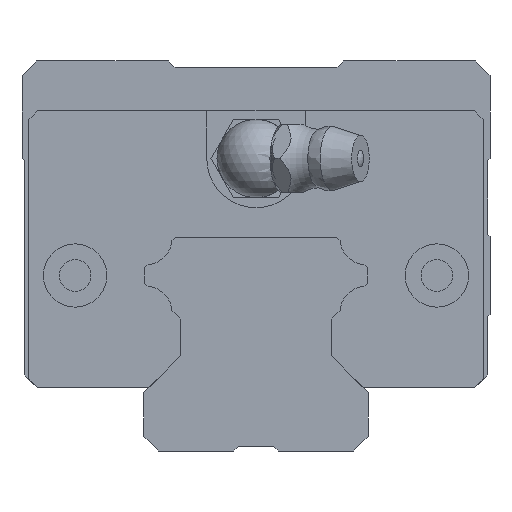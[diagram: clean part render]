
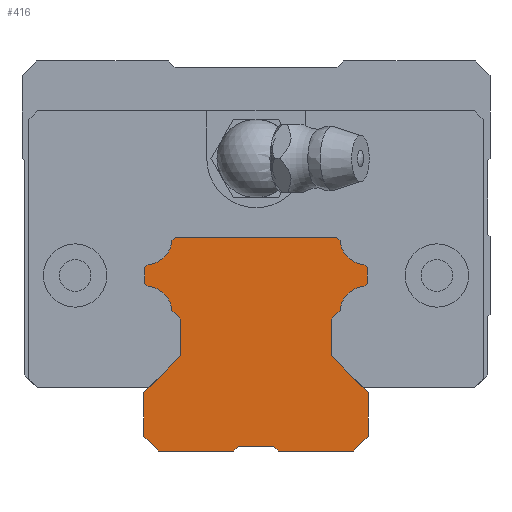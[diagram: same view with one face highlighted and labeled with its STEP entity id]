
A CAD part, front view. The second image highlights one B-rep face of the part: STEP entity #416.
In plain terms, the highlighted planar face has unit normal (0, -1, 0).
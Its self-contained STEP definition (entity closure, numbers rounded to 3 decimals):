
#277=CIRCLE('',#3350,2.65);
#279=CIRCLE('',#3356,2.65);
#290=CIRCLE('',#3385,2.65);
#292=CIRCLE('',#3391,2.65);
#416=ADVANCED_FACE('',(#728),#579,.T.);
#579=PLANE('',#3399);
#728=FACE_OUTER_BOUND('',#896,.T.);
#896=EDGE_LOOP('',(#1366,#1367,#1368,#1369,#1370,#1371,#1372,#1373,#1374,
#1375,#1376,#1377,#1378,#1379,#1380,#1381,#1382,#1383,#1384,#1385,#1386,
#1387,#1388,#1389,#1390,#1391,#1392,#1393));
#1366=ORIENTED_EDGE('',*,*,#2329,.F.);
#1367=ORIENTED_EDGE('',*,*,#2420,.F.);
#1368=ORIENTED_EDGE('',*,*,#2413,.T.);
#1369=ORIENTED_EDGE('',*,*,#2410,.F.);
#1370=ORIENTED_EDGE('',*,*,#2407,.T.);
#1371=ORIENTED_EDGE('',*,*,#2404,.T.);
#1372=ORIENTED_EDGE('',*,*,#2401,.F.);
#1373=ORIENTED_EDGE('',*,*,#2398,.F.);
#1374=ORIENTED_EDGE('',*,*,#2395,.F.);
#1375=ORIENTED_EDGE('',*,*,#2392,.F.);
#1376=ORIENTED_EDGE('',*,*,#2389,.F.);
#1377=ORIENTED_EDGE('',*,*,#2386,.T.);
#1378=ORIENTED_EDGE('',*,*,#2383,.T.);
#1379=ORIENTED_EDGE('',*,*,#2379,.F.);
#1380=ORIENTED_EDGE('',*,*,#2326,.T.);
#1381=ORIENTED_EDGE('',*,*,#2371,.T.);
#1382=ORIENTED_EDGE('',*,*,#2319,.F.);
#1383=ORIENTED_EDGE('',*,*,#2364,.T.);
#1384=ORIENTED_EDGE('',*,*,#2359,.F.);
#1385=ORIENTED_EDGE('',*,*,#2356,.F.);
#1386=ORIENTED_EDGE('',*,*,#2353,.T.);
#1387=ORIENTED_EDGE('',*,*,#2350,.T.);
#1388=ORIENTED_EDGE('',*,*,#2347,.T.);
#1389=ORIENTED_EDGE('',*,*,#2344,.F.);
#1390=ORIENTED_EDGE('',*,*,#2341,.T.);
#1391=ORIENTED_EDGE('',*,*,#2338,.F.);
#1392=ORIENTED_EDGE('',*,*,#2335,.F.);
#1393=ORIENTED_EDGE('',*,*,#2332,.F.);
#1988=VERTEX_POINT('',#4828);
#1989=VERTEX_POINT('',#4830);
#1990=VERTEX_POINT('',#4837);
#1993=VERTEX_POINT('',#4842);
#1996=VERTEX_POINT('',#4849);
#1997=VERTEX_POINT('',#4851);
#1999=VERTEX_POINT('',#4857);
#2001=VERTEX_POINT('',#4863);
#2003=VERTEX_POINT('',#4869);
#2005=VERTEX_POINT('',#4875);
#2007=VERTEX_POINT('',#4881);
#2009=VERTEX_POINT('',#4887);
#2011=VERTEX_POINT('',#4893);
#2013=VERTEX_POINT('',#4899);
#2015=VERTEX_POINT('',#4905);
#2017=VERTEX_POINT('',#4911);
#2022=VERTEX_POINT('',#4941);
#2025=VERTEX_POINT('',#4949);
#2027=VERTEX_POINT('',#4955);
#2029=VERTEX_POINT('',#4961);
#2031=VERTEX_POINT('',#4967);
#2033=VERTEX_POINT('',#4973);
#2035=VERTEX_POINT('',#4979);
#2037=VERTEX_POINT('',#4985);
#2039=VERTEX_POINT('',#4991);
#2041=VERTEX_POINT('',#4997);
#2043=VERTEX_POINT('',#5003);
#2045=VERTEX_POINT('',#5009);
#2319=EDGE_CURVE('',#1988,#1989,#2699,.T.);
#2326=EDGE_CURVE('',#1990,#1993,#2703,.T.);
#2329=EDGE_CURVE('',#1996,#1997,#2706,.T.);
#2332=EDGE_CURVE('',#1997,#1999,#277,.T.);
#2335=EDGE_CURVE('',#1999,#2001,#2710,.T.);
#2338=EDGE_CURVE('',#2001,#2003,#2713,.T.);
#2341=EDGE_CURVE('',#2005,#2003,#2716,.T.);
#2344=EDGE_CURVE('',#2005,#2007,#279,.T.);
#2347=EDGE_CURVE('',#2009,#2007,#2720,.T.);
#2350=EDGE_CURVE('',#2011,#2009,#2723,.T.);
#2353=EDGE_CURVE('',#2013,#2011,#2726,.T.);
#2356=EDGE_CURVE('',#2013,#2015,#2729,.T.);
#2359=EDGE_CURVE('',#2015,#2017,#2732,.T.);
#2364=EDGE_CURVE('',#1988,#2017,#2736,.T.);
#2371=EDGE_CURVE('',#1993,#1989,#2738,.T.);
#2379=EDGE_CURVE('',#1990,#2022,#2741,.T.);
#2383=EDGE_CURVE('',#2025,#2022,#2745,.T.);
#2386=EDGE_CURVE('',#2027,#2025,#2748,.T.);
#2389=EDGE_CURVE('',#2027,#2029,#2751,.T.);
#2392=EDGE_CURVE('',#2029,#2031,#2754,.T.);
#2395=EDGE_CURVE('',#2031,#2033,#2757,.T.);
#2398=EDGE_CURVE('',#2033,#2035,#290,.T.);
#2401=EDGE_CURVE('',#2035,#2037,#2761,.T.);
#2404=EDGE_CURVE('',#2039,#2037,#2764,.T.);
#2407=EDGE_CURVE('',#2041,#2039,#2767,.T.);
#2410=EDGE_CURVE('',#2041,#2043,#292,.T.);
#2413=EDGE_CURVE('',#2045,#2043,#2771,.T.);
#2420=EDGE_CURVE('',#2045,#1996,#2774,.T.);
#2699=LINE('',#4829,#3007);
#2703=LINE('',#4843,#3011);
#2706=LINE('',#4850,#3014);
#2710=LINE('',#4862,#3018);
#2713=LINE('',#4868,#3021);
#2716=LINE('',#4874,#3024);
#2720=LINE('',#4886,#3028);
#2723=LINE('',#4892,#3031);
#2726=LINE('',#4898,#3034);
#2729=LINE('',#4904,#3037);
#2732=LINE('',#4910,#3040);
#2736=LINE('',#4919,#3044);
#2738=LINE('',#4928,#3046);
#2741=LINE('',#4940,#3049);
#2745=LINE('',#4948,#3053);
#2748=LINE('',#4954,#3056);
#2751=LINE('',#4960,#3059);
#2754=LINE('',#4966,#3062);
#2757=LINE('',#4972,#3065);
#2761=LINE('',#4984,#3069);
#2764=LINE('',#4990,#3072);
#2767=LINE('',#4996,#3075);
#2771=LINE('',#5008,#3079);
#2774=LINE('',#5021,#3082);
#3007=VECTOR('',#3761,1.);
#3011=VECTOR('',#3775,1.);
#3014=VECTOR('',#3780,1.);
#3018=VECTOR('',#3792,1.);
#3021=VECTOR('',#3797,1.);
#3024=VECTOR('',#3802,1.);
#3028=VECTOR('',#3814,1.);
#3031=VECTOR('',#3819,1.);
#3034=VECTOR('',#3824,1.);
#3037=VECTOR('',#3829,1.);
#3040=VECTOR('',#3834,1.);
#3044=VECTOR('',#3842,1.);
#3046=VECTOR('',#3858,1.);
#3049=VECTOR('',#3875,1.);
#3053=VECTOR('',#3881,1.);
#3056=VECTOR('',#3886,1.);
#3059=VECTOR('',#3891,1.);
#3062=VECTOR('',#3896,1.);
#3065=VECTOR('',#3901,1.);
#3069=VECTOR('',#3913,1.);
#3072=VECTOR('',#3918,1.);
#3075=VECTOR('',#3923,1.);
#3079=VECTOR('',#3935,1.);
#3082=VECTOR('',#3948,1.);
#3350=AXIS2_PLACEMENT_3D('',#4856,#3786,#3787);
#3356=AXIS2_PLACEMENT_3D('',#4880,#3808,#3809);
#3385=AXIS2_PLACEMENT_3D('',#4978,#3907,#3908);
#3391=AXIS2_PLACEMENT_3D('',#5002,#3929,#3930);
#3399=AXIS2_PLACEMENT_3D('',#5023,#3951,#3952);
#3761=DIRECTION('',(-0.707,0.,0.707));
#3775=DIRECTION('',(0.707,0.,0.707));
#3780=DIRECTION('',(0.707,0.,-0.707));
#3786=DIRECTION('',(0.,-1.,0.));
#3787=DIRECTION('',(1.,0.,0.));
#3792=DIRECTION('',(0.707,0.,-0.707));
#3797=DIRECTION('',(0.,0.,-1.));
#3802=DIRECTION('',(0.707,0.,0.707));
#3808=DIRECTION('',(0.,-1.,0.));
#3809=DIRECTION('',(1.,0.,0.));
#3814=DIRECTION('',(0.707,0.,0.707));
#3819=DIRECTION('',(0.,0.,1.));
#3824=DIRECTION('',(-0.707,0.,0.707));
#3829=DIRECTION('',(0.,0.,-1.));
#3834=DIRECTION('',(-0.707,0.,-0.707));
#3842=DIRECTION('',(1.,0.,0.));
#3858=DIRECTION('',(1.,0.,0.));
#3875=DIRECTION('',(-1.,0.,0.));
#3881=DIRECTION('',(0.707,0.,-0.707));
#3886=DIRECTION('',(0.,0.,-1.));
#3891=DIRECTION('',(0.707,0.,0.707));
#3896=DIRECTION('',(0.,0.,1.));
#3901=DIRECTION('',(-0.707,0.,0.707));
#3907=DIRECTION('',(0.,-1.,0.));
#3908=DIRECTION('',(1.,0.,0.));
#3913=DIRECTION('',(-0.707,0.,0.707));
#3918=DIRECTION('',(0.,0.,-1.));
#3923=DIRECTION('',(-0.707,0.,-0.707));
#3929=DIRECTION('',(0.,-1.,0.));
#3930=DIRECTION('',(1.,0.,0.));
#3935=DIRECTION('',(-0.707,0.,-0.707));
#3948=DIRECTION('',(1.,0.,0.));
#3951=DIRECTION('',(0.,-1.,0.));
#3952=DIRECTION('',(0.,0.,-1.));
#4828=CARTESIAN_POINT('',(2.3,-220.,-110.));
#4829=CARTESIAN_POINT('',(2.3,-220.,-110.));
#4830=CARTESIAN_POINT('',(1.8,-220.,-109.5));
#4837=CARTESIAN_POINT('',(-2.3,-220.,-110.));
#4842=CARTESIAN_POINT('',(-1.8,-220.,-109.5));
#4843=CARTESIAN_POINT('',(-2.3,-220.,-110.));
#4849=CARTESIAN_POINT('',(8.271,-220.,-88.07));
#4850=CARTESIAN_POINT('',(8.271,-220.,-88.07));
#4851=CARTESIAN_POINT('',(8.627,-220.,-88.426));
#4856=CARTESIAN_POINT('',(11.27,-220.,-88.23));
#4857=CARTESIAN_POINT('',(11.074,-220.,-90.873));
#4862=CARTESIAN_POINT('',(11.074,-220.,-90.873));
#4863=CARTESIAN_POINT('',(11.43,-220.,-91.229));
#4868=CARTESIAN_POINT('',(11.43,-220.,-91.229));
#4869=CARTESIAN_POINT('',(11.43,-220.,-92.771));
#4874=CARTESIAN_POINT('',(11.074,-220.,-93.127));
#4875=CARTESIAN_POINT('',(11.074,-220.,-93.127));
#4880=CARTESIAN_POINT('',(11.27,-220.,-95.77));
#4881=CARTESIAN_POINT('',(8.627,-220.,-95.574));
#4886=CARTESIAN_POINT('',(7.73,-220.,-96.471));
#4887=CARTESIAN_POINT('',(7.73,-220.,-96.471));
#4892=CARTESIAN_POINT('',(7.73,-220.,-100.229));
#4893=CARTESIAN_POINT('',(7.73,-220.,-100.229));
#4898=CARTESIAN_POINT('',(11.5,-220.,-103.999));
#4899=CARTESIAN_POINT('',(11.5,-220.,-103.999));
#4904=CARTESIAN_POINT('',(11.5,-220.,-103.999));
#4905=CARTESIAN_POINT('',(11.5,-220.,-108.5));
#4910=CARTESIAN_POINT('',(11.5,-220.,-108.5));
#4911=CARTESIAN_POINT('',(10.,-220.,-110.));
#4919=CARTESIAN_POINT('',(2.3,-220.,-110.));
#4928=CARTESIAN_POINT('',(-1.8,-220.,-109.5));
#4940=CARTESIAN_POINT('',(-2.3,-220.,-110.));
#4941=CARTESIAN_POINT('',(-10.,-220.,-110.));
#4948=CARTESIAN_POINT('',(-11.5,-220.,-108.5));
#4949=CARTESIAN_POINT('',(-11.5,-220.,-108.5));
#4954=CARTESIAN_POINT('',(-11.5,-220.,-103.999));
#4955=CARTESIAN_POINT('',(-11.5,-220.,-103.999));
#4960=CARTESIAN_POINT('',(-11.5,-220.,-103.999));
#4961=CARTESIAN_POINT('',(-7.73,-220.,-100.229));
#4966=CARTESIAN_POINT('',(-7.73,-220.,-100.229));
#4967=CARTESIAN_POINT('',(-7.73,-220.,-96.471));
#4972=CARTESIAN_POINT('',(-7.73,-220.,-96.471));
#4973=CARTESIAN_POINT('',(-8.627,-220.,-95.574));
#4978=CARTESIAN_POINT('',(-11.27,-220.,-95.77));
#4979=CARTESIAN_POINT('',(-11.074,-220.,-93.127));
#4984=CARTESIAN_POINT('',(-11.074,-220.,-93.127));
#4985=CARTESIAN_POINT('',(-11.43,-220.,-92.771));
#4990=CARTESIAN_POINT('',(-11.43,-220.,-91.229));
#4991=CARTESIAN_POINT('',(-11.43,-220.,-91.229));
#4996=CARTESIAN_POINT('',(-11.074,-220.,-90.873));
#4997=CARTESIAN_POINT('',(-11.074,-220.,-90.873));
#5002=CARTESIAN_POINT('',(-11.27,-220.,-88.23));
#5003=CARTESIAN_POINT('',(-8.627,-220.,-88.426));
#5008=CARTESIAN_POINT('',(-8.271,-220.,-88.07));
#5009=CARTESIAN_POINT('',(-8.271,-220.,-88.07));
#5021=CARTESIAN_POINT('',(-8.271,-220.,-88.07));
#5023=CARTESIAN_POINT('',(11.27,-220.,-88.23));
